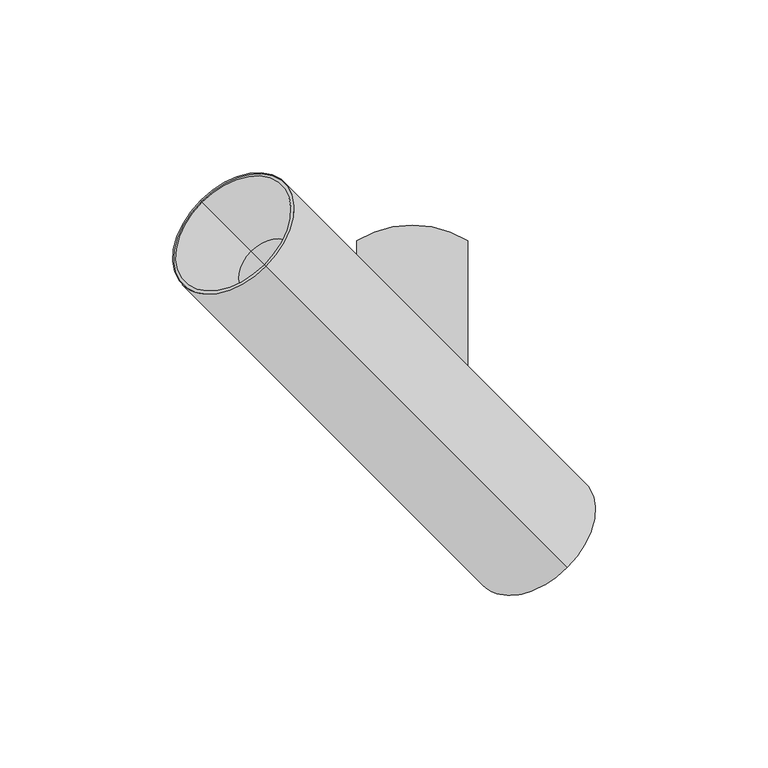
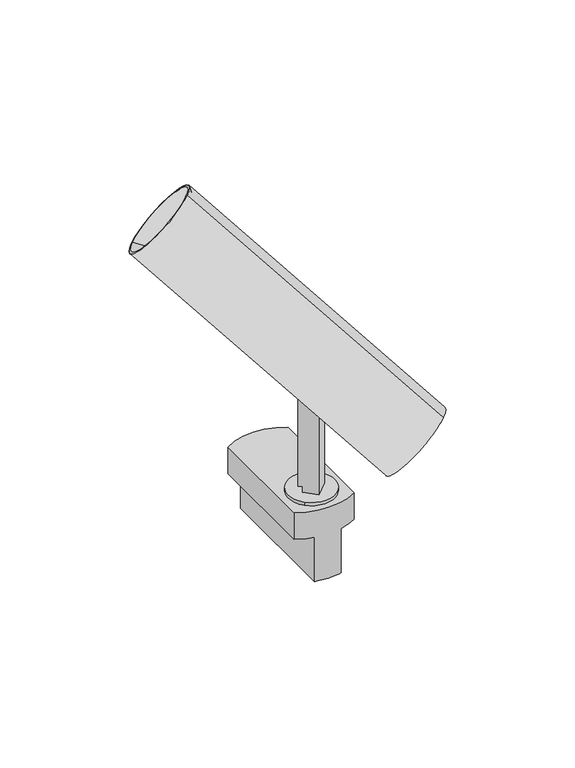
"""IFC4 building model written with IfcOpenShell, lengths in millimetres: light fixture geometry, PIPES T XS : 490lm 7,8W 930 38°."""

import ifcopenshell
import ifcopenshell.guid

model = None  # the IFC model being written
_history = None  # IfcOwnerHistory: only IFC2X3 demands one
_inside = {}  # id of a spatial element -> (the spatial element, [elements in it])
_under = {}  # id of a project, library or spatial element -> (it, [spatial elements below it])
_declared = {}  # id of a project -> (the project, [libraries it declares])
_typed = {}  # id of a type object -> (the type object, [elements of that type])
_made_of = {}  # id of a material, layer set ... -> (it, [elements and type objects made of it])


def new_model(schema):
    """Start an empty IFC model of exactly this schema.

    Asked for "IFC4X3", IfcOpenShell would pick the latest addendum, in which some entities
    have other attributes; the version numbers below select the first issue.
    IFC2X3 requires an IfcOwnerHistory on every rooted entity: one is made here for all.
    """
    global model, _history
    if schema == "IFC4X3":
        model = ifcopenshell.file(schema_version=(4, 3, 0, 0))
    else:
        model = ifcopenshell.file(schema=schema)
    _inside.clear()
    _under.clear()
    _declared.clear()
    _typed.clear()
    _made_of.clear()
    _history = None
    if model.schema == "IFC2X3":
        org = make("IfcOrganization", Name="unknown")
        user = make(
            "IfcPersonAndOrganization",
            ThePerson=make("IfcPerson", FamilyName="unknown"),
            TheOrganization=org,
        )
        app = make(
            "IfcApplication",
            ApplicationDeveloper=org,
            Version="unknown",
            ApplicationFullName="unknown",
            ApplicationIdentifier="unknown",
        )
        _history = make(
            "IfcOwnerHistory",
            OwningUser=user,
            OwningApplication=app,
            ChangeAction="ADDED",
            CreationDate=0,
        )
    return model


def make(cls, **values):
    """One entity of the class cls with the attributes given. An attribute that is None is left unset."""
    return model.create_entity(
        cls, **{name: value for name, value in values.items() if value is not None}
    )


def rooted(cls, **values):
    """An entity with a GlobalId (a new one), such as an element, a storey or a relation."""
    return make(cls, GlobalId=ifcopenshell.guid.new(), OwnerHistory=_history, **values)


def si_unit(unit_type, name, prefix=None):
    """IfcSIUnit, for example si_unit("LENGTHUNIT", "METRE", prefix="MILLI")."""
    return make("IfcSIUnit", UnitType=unit_type, Prefix=prefix, Name=name)


def assignment(units):
    """IfcUnitAssignment: the units of a project."""
    return None if units is None else make("IfcUnitAssignment", Units=units)


def point(xyz):
    """IfcCartesianPoint."""
    return None if xyz is None else make("IfcCartesianPoint", Coordinates=xyz)


def direction(xyz):
    """IfcDirection."""
    return None if xyz is None else make("IfcDirection", DirectionRatios=xyz)


def frame(location, z_axis=None, x_axis=None):
    """IfcAxis2Placement3D, a coordinate frame: its origin and axes. An axis left out is left unset."""
    return make(
        "IfcAxis2Placement3D",
        Location=point(location),
        Axis=direction(z_axis),
        RefDirection=direction(x_axis),
    )


def frame_2d(location, x_axis=None):
    """IfcAxis2Placement2D, a coordinate frame in the plane: its origin and x axis."""
    return make(
        "IfcAxis2Placement2D", Location=point(location), RefDirection=direction(x_axis)
    )


def origin():
    """The frame at (0, 0, 0) with its axes left unset."""
    return frame((0.0, 0.0, 0.0))


def origin_2d():
    """The frame at (0, 0) in the plane with its x axis left unset."""
    return frame_2d((0.0, 0.0))


def place(relative_to, where):
    """IfcLocalPlacement: puts the frame where relative to a parent placement (None: the world)."""
    return make(
        "IfcLocalPlacement", PlacementRelTo=relative_to, RelativePlacement=where
    )


def context(
    kind, dimensions, precision=None, world=None, true_north=None, identifier=None
):
    """IfcGeometricRepresentationContext, for example the 3D "Model" context."""
    return make(
        "IfcGeometricRepresentationContext",
        ContextIdentifier=identifier,
        ContextType=kind,
        CoordinateSpaceDimension=dimensions,
        Precision=precision,
        WorldCoordinateSystem=world,
        TrueNorth=true_north,
    )


def project(units=None, contexts=None):
    """IfcProject with its units and contexts."""
    return rooted(
        "IfcProject",
        Name="project",
        RepresentationContexts=contexts,
        UnitsInContext=assignment(units),
    )


def spatial(cls, under=None, at=None, **own):
    """A site, building, storey or space (cls), placed at a placement, below another one or the project."""
    s = rooted(cls, ObjectPlacement=at, **own)
    if under is not None:
        _under.setdefault(under.id(), (under, []))[1].append(s)
    return s


def polyline(points):
    """IfcPolyline through the points."""
    return make("IfcPolyline", Points=[point(p) for p in points])


def circle_curve(where, radius):
    """IfcCircle in the frame where."""
    return make("IfcCircle", Position=where, Radius=radius)


def trimmed(basis, trim1, trim2, sense, master):
    """IfcTrimmedCurve: the piece of a basis curve between two trims."""
    return make(
        "IfcTrimmedCurve",
        BasisCurve=basis,
        Trim1=trim1,
        Trim2=trim2,
        SenseAgreement=sense,
        MasterRepresentation=master,
    )


def segment(curve, same_sense, transition):
    """IfcCompositeCurveSegment."""
    return make(
        "IfcCompositeCurveSegment",
        Transition=transition,
        SameSense=same_sense,
        ParentCurve=curve,
    )


def composite_curve(segments, self_intersect=None):
    """IfcCompositeCurve: segments joined end to end."""
    return make("IfcCompositeCurve", Segments=segments, SelfIntersect=self_intersect)


def outline(outer, holes=None, kind="AREA"):
    """IfcArbitraryClosedProfileDef: a profile drawn as a closed curve; with holes, ...WithVoids."""
    if holes is None:
        return make("IfcArbitraryClosedProfileDef", ProfileType=kind, OuterCurve=outer)
    return make(
        "IfcArbitraryProfileDefWithVoids",
        ProfileType=kind,
        OuterCurve=outer,
        InnerCurves=holes,
    )


def extrude(swept, where, along, depth):
    """IfcExtrudedAreaSolid: the profile swept, set in the frame where, extruded along a direction by depth."""
    return make(
        "IfcExtrudedAreaSolid",
        SweptArea=swept,
        Position=where,
        ExtrudedDirection=direction(along),
        Depth=depth,
    )


def shape(context_of_items, identifier, shape_type, items):
    """IfcShapeRepresentation: the items that make up one representation, for example the "Body"."""
    return make(
        "IfcShapeRepresentation",
        ContextOfItems=context_of_items,
        RepresentationIdentifier=identifier,
        RepresentationType=shape_type,
        Items=items,
    )


def source(mapping_origin, context_of_items, identifier, shape_type, items):
    """IfcRepresentationMap: a shape defined once, which mapped items show again and again."""
    return make(
        "IfcRepresentationMap",
        MappingOrigin=mapping_origin,
        MappedRepresentation=shape(context_of_items, identifier, shape_type, items),
    )


def transform(
    local_origin,
    x_axis=None,
    y_axis=None,
    z_axis=None,
    scale=None,
    scale2=None,
    scale3=None,
    uniform=True,
):
    """IfcCartesianTransformationOperator3D, or its non-uniform kind. x_axis, y_axis, z_axis: its Axis1, 2, 3."""
    if uniform:
        return make(
            "IfcCartesianTransformationOperator3D",
            Axis1=direction(x_axis),
            Axis2=direction(y_axis),
            LocalOrigin=point(local_origin),
            Scale=scale,
            Axis3=direction(z_axis),
        )
    return make(
        "IfcCartesianTransformationOperator3DnonUniform",
        Axis1=direction(x_axis),
        Axis2=direction(y_axis),
        LocalOrigin=point(local_origin),
        Scale=scale,
        Axis3=direction(z_axis),
        Scale2=scale2,
        Scale3=scale3,
    )


def mapped(mapping_source, mapping_target):
    """IfcMappedItem: shows the shape of a source again, moved by a transform."""
    return make(
        "IfcMappedItem", MappingSource=mapping_source, MappingTarget=mapping_target
    )


def made_of(thing, what):
    """Note that an element or type object is made of a material, layer set ...; save() writes the relation."""
    if what is not None:
        _made_of.setdefault(what.id(), (what, []))[1].append(thing)
    return thing


def element(
    cls,
    number,
    at=None,
    inside=None,
    cuts=None,
    type_object=None,
    material=None,
    context=None,
    identifier="Body",
    shape_type=None,
    held_by="IfcProductDefinitionShape",
    body=None,
    shapes=None,
    **own,
):
    """One element of the class cls, such as IfcWall. Its Tag is "e" and its number.

    at: its placement. inside: the storey or other place that contains it. cuts: it is an
    opening in that element (IfcRelVoidsElement). A single representation is given by context,
    identifier, shape_type and body (its items); several are given by shapes. held_by: the class
    of the entity that holds the representations. save() writes the other relations.
    """
    e = rooted(cls, Tag="e%d" % number, ObjectPlacement=at, **own)
    if body is not None:
        shapes = [shape(context, identifier, shape_type, body)]
    if shapes is not None:
        e.Representation = make(held_by, Representations=shapes)
    if inside is not None:
        _inside.setdefault(inside.id(), (inside, []))[1].append(e)
    if cuts is not None:
        rooted(
            "IfcRelVoidsElement", RelatingBuildingElement=cuts, RelatedOpeningElement=e
        )
    if type_object is not None:
        _typed.setdefault(type_object.id(), (type_object, []))[1].append(e)
    return made_of(e, material)


def aggregate(whole, parts):
    """IfcRelAggregates: a whole, such as a stair, and the parts it consists of."""
    return rooted("IfcRelAggregates", RelatingObject=whole, RelatedObjects=parts)


def save(model, path):
    """Write the relations noted so far, then the file.

    IfcRelAggregates (storeys below a building ...), IfcRelContainedInSpatialStructure (elements
    in a storey), IfcRelDefinesByType, IfcRelAssociatesMaterial and IfcRelDeclares: one each for
    every whole, place, type object, material and project.
    """
    for whole, parts in _under.values():
        aggregate(whole, parts)
    for where, things in _inside.values():
        rooted(
            "IfcRelContainedInSpatialStructure",
            RelatedElements=things,
            RelatingStructure=where,
        )
    for kind, things in _typed.values():
        rooted("IfcRelDefinesByType", RelatedObjects=things, RelatingType=kind)
    for what, things in _made_of.values():
        rooted("IfcRelAssociatesMaterial", RelatedObjects=things, RelatingMaterial=what)
    for by, libraries in _declared.values():
        rooted("IfcRelDeclares", RelatingContext=by, RelatedDefinitions=libraries)
    model.write(path)


def plane_surface(at):
    """IfcPlane: the flat surface through the origin of the frame at, square to its z axis."""
    return make("IfcPlane", Position=at)


def cylinder_surface(at, radius):
    """IfcCylindricalSurface: all points at the distance radius from the z axis of the frame at."""
    return make("IfcCylindricalSurface", Position=at, Radius=radius)


def revolved_surface(curve, axis_point, axis_direction):
    """IfcSurfaceOfRevolution: the curve turned about the line through axis_point along axis_direction."""
    return make(
        "IfcSurfaceOfRevolution",
        SweptCurve=make("IfcArbitraryOpenProfileDef", ProfileType="CURVE", Curve=curve),
        AxisPosition=make("IfcAxis1Placement", Location=point(axis_point), Axis=direction(axis_direction)),
    )


def advanced_brep(points, edges, surfaces, faces):
    """IfcAdvancedBrep: a solid bounded by faces that lie on surfaces and meet in shared edges.

    An edge is (start, end): straight between two places in points (the first is 0);
    or (start, end, curve); or (start, end, curve, False) where it runs against its curve.
    A face is (place in surfaces, loops), or (place, loops, False) where it looks against
    its surface's normal. A loop lists edges by number (the first is 1), with a minus sign
    where the edge is run from its end to its start. The first loop is the outer one.
    """
    corners = [point(p) for p in points]
    vertices = [make("IfcVertexPoint", VertexGeometry=c) for c in corners]
    made = []
    for start, end, *more in edges:
        made.append(
            make(
                "IfcEdgeCurve",
                EdgeStart=vertices[start],
                EdgeEnd=vertices[end],
                EdgeGeometry=more[0] if more else make("IfcPolyline", Points=[corners[start], corners[end]]),
                SameSense=more[1] if len(more) > 1 else True,
            )
        )
    hull = []
    for where, loops, *sense in faces:
        bounds = []
        for j, loop in enumerate(loops):
            ring = [make("IfcOrientedEdge", EdgeElement=made[abs(k) - 1], Orientation=k > 0) for k in loop]
            bounds.append(
                make(
                    "IfcFaceOuterBound" if j == 0 else "IfcFaceBound",
                    Bound=make("IfcEdgeLoop", EdgeList=ring),
                    Orientation=True,
                )
            )
        hull.append(make("IfcAdvancedFace", Bounds=bounds, FaceSurface=surfaces[where], SameSense=sense[0] if sense else True))
    return make("IfcAdvancedBrep", Outer=make("IfcClosedShell", CfsFaces=hull))


def light_fixture_0d42040f(model_context):
    return source(origin(), model_context, "Body", "SolidModel", [
        extrude(outline(composite_curve([segment(polyline([(-39.7303383, 0.0), (8.1822916, 0.0)]), True, "CONTINUOUS"), segment(trimmed(circle_curve(frame_2d((17.7182036, -2.2388678)), 9.7952104), [point((8.1822916, 0.0))], [point((9.8735653, 3.626948))], False, "CARTESIAN"), True, "CONTINUOUS"), segment(polyline([(9.8735653, 3.626948), (15.691322, 3.626948)]), True, "CONTINUOUS"), segment(trimmed(circle_curve(frame_2d((15.691322, -2.0000001)), 5.626948), [point((15.691322, 3.626948))], [point((21.31827, -2.0000001))], False, "CARTESIAN"), True, "CONTINUOUS"), segment(polyline([(21.31827, -2.0000001), (21.31827, -10.0), (-36.7303383, -10.0), (-36.7303383, -7.9999999), (-39.7303383, -7.9999999), (-39.7303383, 0.0)]), True, "CONTINUOUS")], self_intersect=False)), frame((0.0, -7.0710678, 56.5303383), z_axis=(0.7071067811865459, 0.7071067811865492, 0.0), x_axis=(0.0, 0.0, 1.0)), (0.0, 0.0, 1.0), 10.0),
        extrude(outline(composite_curve([segment(trimmed(circle_curve(origin_2d(), 12.5), [point((-8.8388348, -8.8388348))], [point((8.8388348, 8.8388348))], False, "CARTESIAN"), True, "CONTINUOUS"), segment(trimmed(circle_curve(origin_2d(), 12.5), [point((8.8388348, 8.8388348))], [point((-8.8388348, -8.8388348))], False, "CARTESIAN"), True, "CONTINUOUS")], self_intersect=False)), frame((0.0, 0.0, 15.0), z_axis=(0.0, 0.0, 1.0), x_axis=(1.0, 0.0, 0.0)), (0.0, 0.0, 1.0), 1.8),
        advanced_brep(
        [(-7.1153658, -15.2862846, -25.0), (-7.1153658, 53.3498174, -25.0), (7.1153658, 53.3498174, -25.0), (7.1153658, -15.2862846, -25.0), (-16.1153658, 49.7317664, 15.0), (-16.1153658, -11.6682336, 15.0), (16.1153658, -11.6682336, 15.0), (16.1153658, 49.7317664, 15.0), (-16.1153658, 49.7317664, 0.0), (-16.1153658, -11.6682336, 0.0), (-7.1153658, -15.2862846, 0.0), (7.1153658, -15.2862846, 0.0), (16.1153658, -11.6682336, 0.0), (16.1153658, 49.7317664, 0.0), (7.1153658, 53.3498174, 0.0), (-7.1153658, 53.3498174, 0.0)],
        [
            (0, 1),
            (1, 2, circle_curve(frame((0.0, 22.6472542, -25.0), z_axis=(0.0, 0.0, -1.0), x_axis=(1.0, 0.0, 0.0)), 31.5162786)),
            (2, 3),
            (3, 0, circle_curve(frame((0.0, 15.4162786, -25.0), z_axis=(0.0, 0.0, -1.0), x_axis=(1.0, 0.0, 0.0)), 31.5162786)),
            (4, 5),
            (5, 6, circle_curve(frame((0.0, 15.4162786, 15.0), z_axis=(0.0, 0.0, 1.0), x_axis=(1.0, 0.0, 0.0)), 31.5162786)),
            (6, 7),
            (7, 4, circle_curve(frame((0.0, 22.6472542, 15.0), z_axis=(0.0, 0.0, 1.0), x_axis=(1.0, 0.0, 0.0)), 31.5162786)),
            (4, 8),
            (8, 9),
            (9, 5),
            (9, 10, circle_curve(frame((0.0, 15.4162786, 0.0), z_axis=(0.0, 0.0, 1.0), x_axis=(1.0, 0.0, 0.0)), 31.5162786)),
            (10, 0),
            (3, 11),
            (11, 12, circle_curve(frame((0.0, 15.4162786, 0.0), z_axis=(0.0, 0.0, 1.0), x_axis=(1.0, 0.0, 0.0)), 31.5162786)),
            (12, 6),
            (12, 13),
            (13, 7),
            (13, 14, circle_curve(frame((0.0, 22.6472542, 0.0), z_axis=(0.0, 0.0, 1.0), x_axis=(1.0, 0.0, 0.0)), 31.5162786)),
            (14, 2),
            (1, 15),
            (15, 8, circle_curve(frame((0.0, 22.6472542, 0.0), z_axis=(0.0, 0.0, 1.0), x_axis=(1.0, 0.0, 0.0)), 31.5162786)),
            (15, 10),
            (11, 14),
        ],
        [
            plane_surface(frame((-16.1153658, -11.6883244, -25.0), z_axis=(0.0, 0.0, -1.0), x_axis=(0.0, 1.0, 0.0))),
            plane_surface(frame((-16.1153658, -11.6883244, 15.0), z_axis=(0.0, 0.0, 1.0), x_axis=(0.0, -1.0, 0.0))),
            plane_surface(frame((-16.1153658, 49.7317664, 15.0), z_axis=(-1.0, 0.0, 0.0), x_axis=(0.0, 0.0, -1.0))),
            cylinder_surface(frame((0.0, 15.4162786, -25.0), z_axis=(0.0, 0.0, 1.0), x_axis=(1.0, 0.0, 0.0)), 31.5162786),
            plane_surface(frame((16.1153658, -11.6682336, 15.0), z_axis=(1.0, 0.0, 0.0), x_axis=(0.0, 0.0, -1.0))),
            cylinder_surface(frame((0.0, 22.6472542, -25.0), z_axis=(0.0, 0.0, 1.0), x_axis=(1.0, 0.0, 0.0)), 31.5162786),
            plane_surface(frame((-7.1153658, 58.6979838, 0.0), z_axis=(0.0, 0.0, -1.0), x_axis=(-1.0, 0.0, 0.0))),
            plane_surface(frame((-7.1153658, -21.3020162, 0.0), z_axis=(-1.0, 0.0, 0.0), x_axis=(0.0, 0.0, -1.0))),
            plane_surface(frame((7.1153658, -11.6883244, 0.0), z_axis=(0.0, 0.0, -1.0), x_axis=(0.0, -1.0, 0.0))),
            plane_surface(frame((7.1153658, 58.6979838, 0.0), z_axis=(1.0, 0.0, 0.0), x_axis=(0.0, 0.0, -1.0))),
        ],
        [
            (0, [[1, 2, 3, 4]]),
            (1, [[5, 6, 7, 8]]),
            (2, [[-5, 9, 10, 11]]),
            (3, [[-6, -11, 12, 13, -4, 14, 15, 16]]),
            (4, [[-7, -16, 17, 18]]),
            (5, [[-8, -18, 19, 20, -2, 21, 22, -9]]),
            (6, [[23, -12, -10, -22]]),
            (7, [[-23, -21, -1, -13]]),
            (8, [[24, -19, -17, -15]]),
            (9, [[-24, -14, -3, -20]]),
        ],
    ),
        advanced_brep(
        [(-3.9713126, -3.0997552, 80.0441603), (23.6541236, -30.7251914, 47.2619922), (20.3223582, -27.393426, 41.6466545), (23.5724096, -30.6434774, 37.7899288), (22.6334745, -29.7045423, 36.2074531), (-8.2420131, 1.1709453, 72.8463469), (3.0997552, 3.9713126, 80.0441603), (-1.1709453, 8.2420131, 72.8463469), (29.7045423, -22.6334745, 36.2074531), (30.6434774, -23.5724096, 37.7899288), (27.393426, -20.3223582, 41.6466545), (30.7251914, -23.6541236, 47.2619922), (27.1896575, -27.1896575, 47.2619922), (-4.9809735, 4.9809735, 72.3837158), (-61.3151964, 61.3151964, 139.2336272), (-42.2253784, 42.2253784, 171.4074939), (44.9843321, -44.9843321, 67.9186887), (44.0752932, -44.0752932, 66.3865998), (40.8252419, -40.8252419, 70.2433255), (32.1893718, -32.1893718, 55.688481), (-37.204101, 37.204101, 151.0894342), (-46.2944906, 46.2944906, 135.7685453), (-41.7492958, 41.7492958, 143.4289898)],
        [
            (0, 1),
            (1, 2),
            (2, 3),
            (3, 4),
            (4, 5),
            (5, 0),
            (6, 7),
            (7, 8),
            (8, 9),
            (9, 10),
            (10, 11),
            (11, 6),
            (0, 6),
            (11, 12),
            (12, 1),
            (5, 13, circle_curve(frame((4.5639355, -4.5639355, 88.4706491), z_axis=(0.541675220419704, -0.5416752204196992, -0.6427876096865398), x_axis=(-0.4545194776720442, 0.4545194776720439, -0.7660444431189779)), 21.0)),
            (13, 7, circle_curve(frame((4.5639355, -4.5639355, 88.4706491), z_axis=(0.541675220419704, -0.5416752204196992, -0.6427876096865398), x_axis=(-0.4545194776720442, 0.4545194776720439, -0.7660444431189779)), 21.0)),
            (14, 15, circle_curve(frame((-51.7702874, 51.7702874, 155.3205605), z_axis=(0.541675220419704, -0.5416752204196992, -0.6427876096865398), x_axis=(-0.4545194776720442, 0.4545194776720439, -0.7660444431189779)), 21.0)),
            (15, 16),
            (16, 8, circle_curve(frame((35.4394231, -35.4394231, 51.8317554), z_axis=(-0.541675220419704, 0.5416752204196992, 0.6427876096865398), x_axis=(-0.4545194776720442, 0.4545194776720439, -0.7660444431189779)), 21.0)),
            (13, 14),
            (15, 14, circle_curve(frame((-51.7702874, 51.7702874, 155.3205605), z_axis=(0.541675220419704, -0.5416752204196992, -0.6427876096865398), x_axis=(-0.4545194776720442, 0.4545194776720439, -0.7660444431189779)), 21.0)),
            (4, 16, circle_curve(frame((35.4394231, -35.4394231, 51.8317554), z_axis=(-0.541675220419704, 0.5416752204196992, 0.6427876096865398), x_axis=(-0.4545194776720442, 0.4545194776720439, -0.7660444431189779)), 21.0)),
            (16, 17),
            (17, 9, circle_curve(frame((35.4394231, -35.4394231, 51.8317554), z_axis=(-0.541675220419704, 0.5416752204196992, 0.6427876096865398), x_axis=(-0.4545194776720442, 0.4545194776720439, -0.7660444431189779)), 19.0)),
            (3, 17, circle_curve(frame((35.4394231, -35.4394231, 51.8317554), z_axis=(-0.541675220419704, 0.5416752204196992, 0.6427876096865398), x_axis=(-0.4545194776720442, 0.4545194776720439, -0.7660444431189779)), 19.0)),
            (17, 18),
            (18, 10, circle_curve(frame((32.1893718, -32.1893718, 55.688481), z_axis=(-0.541675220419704, 0.5416752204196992, 0.6427876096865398), x_axis=(-0.4545194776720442, 0.4545194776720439, -0.7660444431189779)), 19.0)),
            (2, 18, circle_curve(frame((32.1893718, -32.1893718, 55.688481), z_axis=(-0.541675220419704, 0.5416752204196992, 0.6427876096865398), x_axis=(-0.4545194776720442, 0.4545194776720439, -0.7660444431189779)), 19.0)),
            (18, 19),
            (19, 12),
            (20, 21, circle_curve(frame((-41.7492958, 41.7492958, 143.4289898), z_axis=(-0.541675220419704, 0.5416752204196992, 0.6427876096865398), x_axis=(-0.4545194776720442, 0.4545194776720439, -0.7660444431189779)), 10.0)),
            (21, 22),
            (22, 20),
            (21, 20, circle_curve(frame((-41.7492958, 41.7492958, 143.4289898), z_axis=(-0.541675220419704, 0.5416752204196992, 0.6427876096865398), x_axis=(-0.4545194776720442, 0.4545194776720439, -0.7660444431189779)), 10.0)),
            (14, 21),
            (20, 15),
        ],
        [
            plane_surface(frame((-3.9713126, -3.0997552, 80.0441603), z_axis=(0.7071067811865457, 0.7071067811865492, 0.0), x_axis=(-0.5416752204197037, 0.5416752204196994, 0.6427876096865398))),
            plane_surface(frame((3.0997552, 3.9713126, 80.0441603), z_axis=(-0.7071067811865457, -0.7071067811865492, 0.0), x_axis=(0.5416752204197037, -0.5416752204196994, -0.6427876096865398))),
            plane_surface(frame((3.0997552, 3.9713126, 80.0441603), z_axis=(-0.4545194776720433, 0.4545194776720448, -0.7660444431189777), x_axis=(-0.7071067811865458, -0.7071067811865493, 0.0))),
            plane_surface(frame((-5.9906344, 13.0617022, 64.7232714), z_axis=(0.5416752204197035, -0.5416752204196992, -0.6427876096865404), x_axis=(-0.7071067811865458, -0.7071067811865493, 0.0))),
            cylinder_surface(frame((40.0178684, -40.0178684, 46.3986696), z_axis=(0.5416752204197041, -0.5416752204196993, -0.6427876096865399), x_axis=(-0.4545194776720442, 0.4545194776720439, -0.7660444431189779)), 21.0),
            plane_surface(frame((35.4394231, -35.4394231, 51.8317554), z_axis=(0.5416752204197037, -0.5416752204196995, -0.6427876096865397), x_axis=(-0.4545194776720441, 0.4545194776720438, -0.7660444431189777))),
            revolved_surface(polyline([(26.803553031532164, -26.80355303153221, 37.27691090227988), (23.553501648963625, -23.553501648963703, 41.13363663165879)]), (40.0178684, -40.0178684, 46.3986696), (0.5416752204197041, -0.5416752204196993, -0.6427876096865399)),
            revolved_surface(polyline([(26.803553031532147, -26.803553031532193, 37.2769109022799), (23.553501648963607, -23.553501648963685, 41.13363663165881)]), (40.0178684, -40.0178684, 46.3986696), (0.5416752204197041, -0.5416752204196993, -0.6427876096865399)),
            plane_surface(frame((32.1893718, -32.1893718, 55.688481), z_axis=(0.5416752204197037, -0.5416752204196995, -0.6427876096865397), x_axis=(-0.4545194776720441, 0.4545194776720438, -0.7660444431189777))),
            plane_surface(frame((-41.7492958, 41.7492958, 143.4289898), z_axis=(-0.5416752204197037, 0.5416752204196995, 0.6427876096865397), x_axis=(-0.4545194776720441, 0.4545194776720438, -0.7660444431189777))),
            revolved_surface(polyline([(-46.2944906, 46.2944906, 135.7685453), (-61.3151964, 61.3151964, 139.2336272)]), (40.0178684, -40.0178684, 46.3986696), (0.5416752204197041, -0.5416752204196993, -0.6427876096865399)),
        ],
        [
            (0, [[1, 2, 3, 4, 5, 6]]),
            (1, [[7, 8, 9, 10, 11, 12]]),
            (2, [[13, -12, 14, 15, -1]]),
            (3, [[-13, -6, 16, 17, -7]]),
            (4, [[18, 19, 20, -8, -17, 21]]),
            (4, [[-19, 22, -21, -16, -5, 23]]),
            (5, [[24, 25, -9, -20]]),
            (5, [[-24, -23, -4, 26]]),
            (6, [[27, 28, -10, -25]]),
            (7, [[-27, -26, -3, 29]]),
            (8, [[30, 31, -14, -11, -28]]),
            (8, [[-30, -29, -2, -15, -31]]),
            (9, [[32, 33, 34]]),
            (9, [[-33, 35, -34]]),
            (10, [[-18, 36, -32, 37]]),
            (10, [[-22, -37, -35, -36]]),
        ],
    ),
        advanced_brep(
        [(25.8208245, -32.8918923, 44.6908417), (26.9041749, -33.9752428, 43.4052665), (24.5218448, -31.5929126, 39.3901013), (23.4384943, -30.5095621, 40.6756765), (33.9752428, -26.9041749, 43.4052665), (32.8918923, -25.8208245, 44.6908417), (30.5095621, -23.4384943, 40.6756765), (31.5929126, -24.5218448, 39.3901013), (29.3563584, -29.3563584, 44.6908417), (30.4397089, -30.4397089, 43.4052665), (34.3560727, -34.3560727, 53.1173306), (42.0800146, -42.0800146, 66.1352167), (43.163365, -43.163365, 64.8496415), (35.4394231, -35.4394231, 51.8317554)],
        [
            (0, 1),
            (1, 2),
            (2, 3),
            (3, 0),
            (4, 5),
            (5, 6),
            (6, 7),
            (7, 4),
            (0, 8),
            (8, 5),
            (4, 9),
            (9, 1),
            (10, 11),
            (11, 6, circle_curve(frame((34.3560727, -34.3560727, 53.1173306), z_axis=(-0.5416752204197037, 0.541675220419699, 0.6427876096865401), x_axis=(-0.4545194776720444, 0.45451947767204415, -0.7660444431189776)), 16.9936434)),
            (8, 10),
            (3, 11, circle_curve(frame((34.3560727, -34.3560727, 53.1173306), z_axis=(-0.5416752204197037, 0.541675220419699, 0.6427876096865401), x_axis=(-0.4545194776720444, 0.45451947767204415, -0.7660444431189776)), 16.9936434)),
            (11, 12),
            (12, 7, circle_curve(frame((35.4394231, -35.4394231, 51.8317554), z_axis=(-0.5416752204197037, 0.541675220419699, 0.6427876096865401), x_axis=(-0.4545194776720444, 0.45451947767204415, -0.7660444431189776)), 16.9936434)),
            (2, 12, circle_curve(frame((35.4394231, -35.4394231, 51.8317554), z_axis=(-0.5416752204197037, 0.541675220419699, 0.6427876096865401), x_axis=(-0.4545194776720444, 0.45451947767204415, -0.7660444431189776)), 16.9936434)),
            (12, 13),
            (13, 9),
        ],
        [
            plane_surface(frame((-3.9713126, -3.0997552, 80.0441603), z_axis=(0.7071067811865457, 0.7071067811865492, 0.0), x_axis=(-0.5416752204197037, 0.5416752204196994, 0.6427876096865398))),
            plane_surface(frame((3.0997552, 3.9713126, 80.0441603), z_axis=(-0.7071067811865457, -0.7071067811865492, 0.0), x_axis=(0.5416752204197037, -0.5416752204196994, -0.6427876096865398))),
            plane_surface(frame((3.0997552, 3.9713126, 80.0441603), z_axis=(-0.4545194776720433, 0.4545194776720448, -0.7660444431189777), x_axis=(-0.7071067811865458, -0.7071067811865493, 0.0))),
            plane_surface(frame((34.3560727, -34.3560727, 53.1173306), z_axis=(-0.5416752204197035, 0.5416752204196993, 0.6427876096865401), x_axis=(-0.4545194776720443, 0.45451947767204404, -0.7660444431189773))),
            cylinder_surface(frame((-36.0875, 36.0875, 136.7103288), z_axis=(0.5416752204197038, -0.5416752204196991, -0.6427876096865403), x_axis=(-0.4545194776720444, 0.45451947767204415, -0.7660444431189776)), 16.9936434),
            plane_surface(frame((35.4394231, -35.4394231, 51.8317554), z_axis=(0.5416752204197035, -0.5416752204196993, -0.6427876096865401), x_axis=(-0.4545194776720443, 0.45451947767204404, -0.7660444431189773))),
        ],
        [
            (0, [[1, 2, 3, 4]]),
            (1, [[5, 6, 7, 8]]),
            (2, [[-1, 9, 10, -5, 11, 12]]),
            (3, [[13, 14, -6, -10, 15]]),
            (3, [[-13, -15, -9, -4, 16]]),
            (4, [[17, 18, -7, -14]]),
            (4, [[-17, -16, -3, 19]]),
            (5, [[20, 21, -11, -8, -18]]),
            (5, [[-20, -19, -2, -12, -21]]),
        ],
    ),
        advanced_brep(
        [(-38.0043178, 38.0043178, 151.2964774), (-46.5776242, 46.5776242, 136.8470774), (-42.290971, 42.290971, 144.0717774), (-42.7541747, 42.7541747, 170.5162635), (-60.7864, 60.7864, 140.1248576), (-42.2253784, 42.2253784, 171.4074939), (-61.3151964, 61.3151964, 139.2336272), (-37.204101, 37.204101, 151.0894342), (-46.2944906, 46.2944906, 135.7685453), (-41.7492958, 41.7492958, 143.4289898)],
        [
            (0, 1, circle_curve(frame((-42.290971, 42.290971, 144.0717774), z_axis=(-0.541675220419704, 0.5416752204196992, 0.6427876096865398), x_axis=(-0.4545194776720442, 0.4545194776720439, -0.7660444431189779)), 9.431176)),
            (1, 2),
            (2, 0),
            (1, 0, circle_curve(frame((-42.290971, 42.290971, 144.0717774), z_axis=(-0.541675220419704, 0.5416752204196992, 0.6427876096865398), x_axis=(-0.4545194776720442, 0.4545194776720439, -0.7660444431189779)), 9.431176)),
            (3, 4, circle_curve(frame((-51.7702874, 51.7702874, 155.3205605), z_axis=(-0.541675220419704, 0.5416752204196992, 0.6427876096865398), x_axis=(-0.4545194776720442, 0.4545194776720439, -0.7660444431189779)), 19.8365814)),
            (4, 1),
            (0, 3),
            (4, 3, circle_curve(frame((-51.7702874, 51.7702874, 155.3205605), z_axis=(-0.541675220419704, 0.5416752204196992, 0.6427876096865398), x_axis=(-0.4545194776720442, 0.4545194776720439, -0.7660444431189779)), 19.8365814)),
            (5, 6, circle_curve(frame((-51.7702874, 51.7702874, 155.3205605), z_axis=(-0.541675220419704, 0.5416752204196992, 0.6427876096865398), x_axis=(-0.4545194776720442, 0.4545194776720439, -0.7660444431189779)), 21.0)),
            (6, 4),
            (3, 5),
            (6, 5, circle_curve(frame((-51.7702874, 51.7702874, 155.3205605), z_axis=(-0.541675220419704, 0.5416752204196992, 0.6427876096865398), x_axis=(-0.4545194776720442, 0.4545194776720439, -0.7660444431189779)), 21.0)),
            (7, 8, circle_curve(frame((-41.7492958, 41.7492958, 143.4289898), z_axis=(-0.541675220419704, 0.5416752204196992, 0.6427876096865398), x_axis=(-0.4545194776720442, 0.4545194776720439, -0.7660444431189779)), 10.0)),
            (8, 6),
            (5, 7),
            (8, 7, circle_curve(frame((-41.7492958, 41.7492958, 143.4289898), z_axis=(-0.541675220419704, 0.5416752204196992, 0.6427876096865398), x_axis=(-0.4545194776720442, 0.4545194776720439, -0.7660444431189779)), 10.0)),
            (9, 8),
            (7, 9),
        ],
        [
            plane_surface(frame((-42.290971, 42.290971, 144.0717774), z_axis=(-0.5416752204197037, 0.5416752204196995, 0.6427876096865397), x_axis=(-0.4545194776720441, 0.4545194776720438, -0.7660444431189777))),
            revolved_surface(polyline([(-46.5776242, 46.5776242, 136.8470774), (-60.7864, 60.7864, 140.1248576)]), (50.8513728, -50.8513728, 33.5429174), (0.5416752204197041, -0.5416752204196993, -0.6427876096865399)),
            plane_surface(frame((-51.7702874, 51.7702874, 155.3205605), z_axis=(-0.5416752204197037, 0.5416752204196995, 0.6427876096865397), x_axis=(-0.4545194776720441, 0.4545194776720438, -0.7660444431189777))),
            revolved_surface(polyline([(-61.3151964, 61.3151964, 139.2336272), (-46.2944906, 46.2944906, 135.7685453)]), (50.8513728, -50.8513728, 33.5429174), (0.5416752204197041, -0.5416752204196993, -0.6427876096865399)),
            plane_surface(frame((-41.7492958, 41.7492958, 143.4289898), z_axis=(0.5416752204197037, -0.5416752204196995, -0.6427876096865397), x_axis=(-0.4545194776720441, 0.4545194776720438, -0.7660444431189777))),
        ],
        [
            (0, [[1, 2, 3]]),
            (0, [[4, -3, -2]]),
            (1, [[5, 6, -1, 7]]),
            (1, [[8, -7, -4, -6]]),
            (2, [[9, 10, -5, 11]]),
            (2, [[12, -11, -8, -10]]),
            (3, [[13, 14, -9, 15]]),
            (3, [[16, -15, -12, -14]]),
            (4, [[17, -13, 18]]),
            (4, [[-18, -16, -17]]),
        ],
    ),
    ])


if __name__ == "__main__":
    model = new_model("IFC4")
    model_context = context("Model", 3, world=origin())
    ifc_project = project(units=[si_unit("LENGTHUNIT", "METRE", prefix="MILLI")], contexts=[model_context])
    site = spatial("IfcSite", under=ifc_project)
    building = spatial("IfcBuilding", under=site)
    placement = place(None, origin())
    light_fixture_shape = light_fixture_0d42040f(model_context)
    element("IfcLightFixture", 1, ObjectType="PIPES T XS : 490lm 7,8W 930 38°", at=placement, inside=building, context=model_context, shape_type="MappedRepresentation", body=[
        mapped(light_fixture_shape, transform((0.0, 0.0, 0.0), x_axis=(1.0, 0.0, 0.0), y_axis=(0.0, 1.0, 0.0), z_axis=(0.0, 0.0, 1.0))),
    ])
    save(model, "model.ifc")
